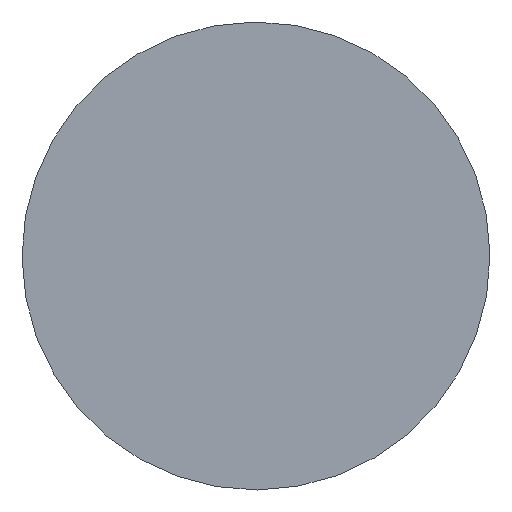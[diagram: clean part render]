
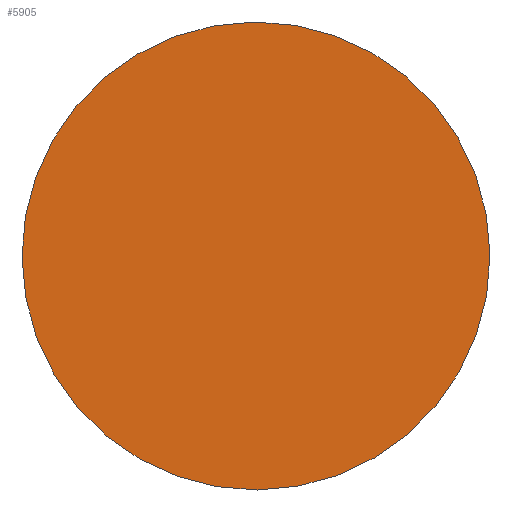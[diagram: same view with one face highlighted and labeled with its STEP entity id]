
A CAD part, front view. The second image highlights one B-rep face of the part: STEP entity #5905.
In plain terms, the highlighted planar face has unit normal (0, -1, 0).
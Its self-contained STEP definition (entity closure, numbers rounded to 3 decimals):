
#1258=FACE_OUTER_BOUND('',#1600,.T.);
#1600=EDGE_LOOP('',(#4116));
#2486=CIRCLE('',#6254,125.);
#2886=VERTEX_POINT('',#8675);
#3454=EDGE_CURVE('',#2886,#2886,#2486,.T.);
#4116=ORIENTED_EDGE('',*,*,#3454,.T.);
#5427=PLANE('',#6256);
#5905=ADVANCED_FACE('',(#1258),#5427,.T.);
#6254=AXIS2_PLACEMENT_3D('',#8676,#6995,#6996);
#6256=AXIS2_PLACEMENT_3D('',#8678,#6999,#7000);
#6995=DIRECTION('center_axis',(0.,-1.,0.));
#6996=DIRECTION('ref_axis',(1.,0.,0.005));
#6999=DIRECTION('center_axis',(0.,-1.,0.));
#7000=DIRECTION('ref_axis',(0.005,0.,-1.));
#8675=CARTESIAN_POINT('',(-124.998,5.378,-0.677));
#8676=CARTESIAN_POINT('Origin',(0.,5.378,0.));
#8678=CARTESIAN_POINT('Origin',(0.,5.378,0.));
